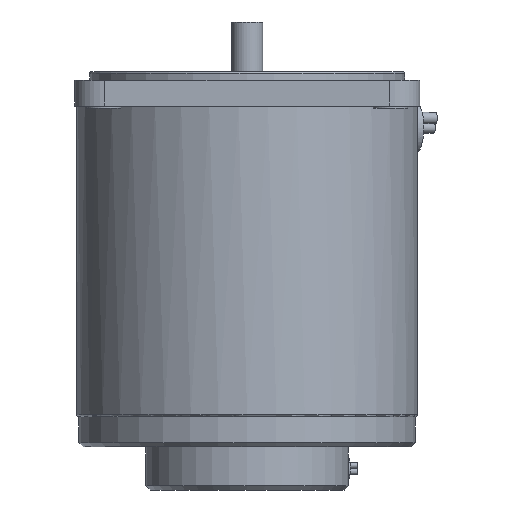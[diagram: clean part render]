
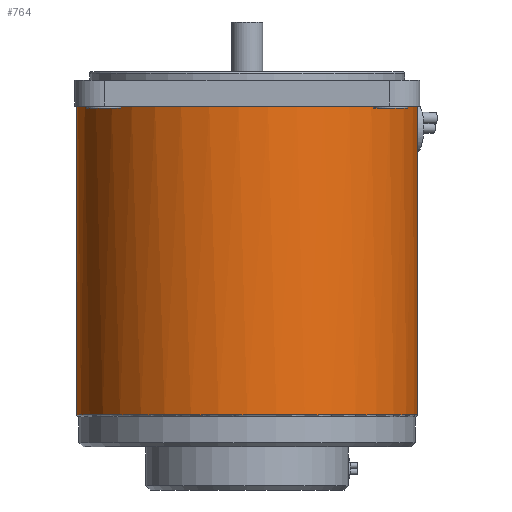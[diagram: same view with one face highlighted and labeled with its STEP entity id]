
A CAD part, left-side view. The second image highlights one B-rep face of the part: STEP entity #764.
In plain terms, the highlighted cylindrical face has radius 39.5 mm (diameter 79 mm), a full revolution.
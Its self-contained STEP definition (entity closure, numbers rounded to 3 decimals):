
#675=CARTESIAN_POINT('',(18.869,-34.702,0.0));
#676=VERTEX_POINT('',#675);
#677=CARTESIAN_POINT('',(11.195,-37.88,0.0));
#678=VERTEX_POINT('',#677);
#679=CARTESIAN_POINT('',(18.869,-34.702,0.));
#680=CARTESIAN_POINT('',(19.007,-34.627,-0.129));
#681=CARTESIAN_POINT('',(19.137,-34.555,-0.265));
#682=CARTESIAN_POINT('',(19.766,-34.204,-0.98));
#683=CARTESIAN_POINT('',(20.201,-33.946,-1.71));
#684=CARTESIAN_POINT('',(20.775,-33.597,-3.311));
#685=CARTESIAN_POINT('',(20.915,-33.508,-4.182));
#686=CARTESIAN_POINT('',(20.915,-33.508,-5.));
#687=CARTESIAN_POINT('',(20.915,-33.508,-5.818));
#688=CARTESIAN_POINT('',(20.775,-33.597,-6.689));
#689=CARTESIAN_POINT('',(20.201,-33.946,-8.29));
#690=CARTESIAN_POINT('',(19.766,-34.204,-9.02));
#691=CARTESIAN_POINT('',(18.753,-34.769,-10.172));
#692=CARTESIAN_POINT('',(18.106,-35.115,-10.672));
#693=CARTESIAN_POINT('',(16.666,-35.821,-11.336));
#694=CARTESIAN_POINT('',(15.871,-36.18,-11.5));
#695=CARTESIAN_POINT('',(14.36,-36.806,-11.5));
#696=CARTESIAN_POINT('',(13.545,-37.114,-11.336));
#697=CARTESIAN_POINT('',(12.027,-37.633,-10.672));
#698=CARTESIAN_POINT('',(11.325,-37.846,-10.172));
#699=CARTESIAN_POINT('',(10.209,-38.162,-9.02));
#700=CARTESIAN_POINT('',(9.719,-38.287,-8.29));
#701=CARTESIAN_POINT('',(9.067,-38.447,-6.689));
#702=CARTESIAN_POINT('',(8.905,-38.483,-5.818));
#703=CARTESIAN_POINT('',(8.905,-38.483,-4.182));
#704=CARTESIAN_POINT('',(9.067,-38.447,-3.311));
#705=CARTESIAN_POINT('',(9.719,-38.287,-1.71));
#706=CARTESIAN_POINT('',(10.209,-38.162,-0.98));
#707=CARTESIAN_POINT('',(10.902,-37.966,-0.265));
#708=CARTESIAN_POINT('',(11.045,-37.925,-0.129));
#709=CARTESIAN_POINT('',(11.195,-37.88,0.));
#710=B_SPLINE_CURVE_WITH_KNOTS('',3,(#679,#680,#681,#682,#683,#684,#685,#686,#687,#688,#689,#690,#691,#692,#693,#694,#695,#696,#697,#698,#699,#700,#701,#702,#703,#704,#705,#706,#707,#708,#709),.UNSPECIFIED.,.F.,.U.,(4,2,2,3,2,2,2,2,2,2,2,2,2,2,4),(-0.55,-0.491,-0.245,0.0,0.245,0.491,0.736,0.981,1.227,1.472,1.717,1.963,2.208,2.453,2.513),.UNSPECIFIED.);
#711=EDGE_CURVE('',#676,#678,#710,.T.);
#738=CARTESIAN_POINT('',(0.0,0.0,0.0));
#739=DIRECTION('',(0.0,0.0,-1.0));
#740=DIRECTION('',(1.0,0.0,0.0));
#741=AXIS2_PLACEMENT_3D('',#738,#739,#740);
#742=CYLINDRICAL_SURFACE('',#741,39.5);
#743=CARTESIAN_POINT('',(-39.5,0.,-71.5));
#744=VERTEX_POINT('',#743);
#745=CARTESIAN_POINT('',(0.0,0.0,-71.5));
#746=DIRECTION('',(0.0,0.0,-1.0));
#747=DIRECTION('',(1.0,0.0,0.0));
#748=AXIS2_PLACEMENT_3D('',#745,#746,#747);
#749=CIRCLE('',#748,39.5);
#750=EDGE_CURVE('',#744,#744,#749,.T.);
#751=ORIENTED_EDGE('',*,*,#750,.F.);
#752=EDGE_LOOP('',(#751));
#753=FACE_OUTER_BOUND('',#752,.T.);
#754=ORIENTED_EDGE('',*,*,#711,.T.);
#755=CARTESIAN_POINT('',(0.0,0.0,0.0));
#756=DIRECTION('',(0.0,0.0,1.0));
#757=DIRECTION('',(1.0,0.0,0.0));
#758=AXIS2_PLACEMENT_3D('',#755,#756,#757);
#759=CIRCLE('',#758,39.5);
#760=EDGE_CURVE('',#676,#678,#759,.T.);
#761=ORIENTED_EDGE('',*,*,#760,.F.);
#762=EDGE_LOOP('',(#754,#761));
#763=FACE_BOUND('',#762,.T.);
#764=ADVANCED_FACE('',(#753,#763),#742,.T.);
